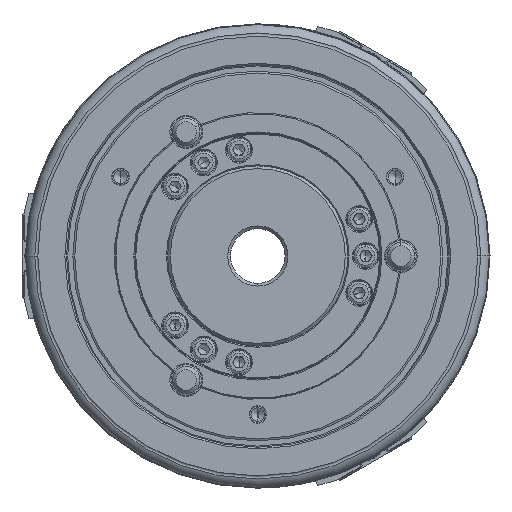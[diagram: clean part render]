
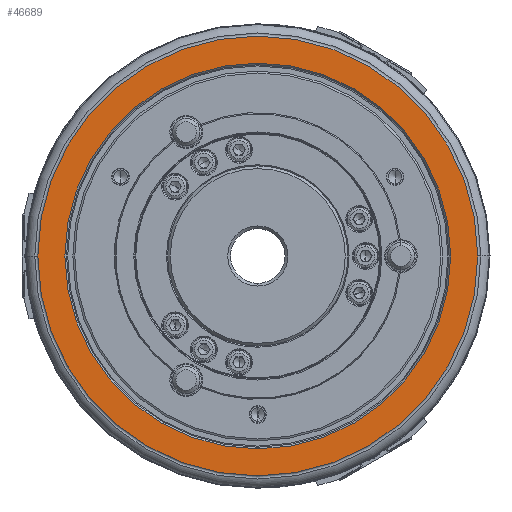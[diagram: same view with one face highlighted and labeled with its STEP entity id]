
A CAD part, left-side view. The second image highlights one B-rep face of the part: STEP entity #46689.
In plain terms, the highlighted planar face has unit normal (-1, 0, 0).
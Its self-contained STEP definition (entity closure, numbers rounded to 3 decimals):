
#175 = AXIS2_PLACEMENT_3D ( 'NONE', #10489, #23740, #58868 ) ;
#3002 = CIRCLE ( 'NONE', #19050, 80.5 ) ;
#5719 = CARTESIAN_POINT ( 'NONE',  ( -81., 80.5, 0. ) ) ;
#7018 = DIRECTION ( 'NONE',  ( 1., 0., 0. ) ) ;
#10020 = EDGE_CURVE ( 'NONE', #61953, #40762, #3002, .T. ) ;
#10416 = CIRCLE ( 'NONE', #175, 80.5 ) ;
#10489 = CARTESIAN_POINT ( 'NONE',  ( -81., 0., 0. ) ) ;
#15319 = DIRECTION ( 'NONE',  ( 1., 0., 0. ) ) ;
#19050 = AXIS2_PLACEMENT_3D ( 'NONE', #63131, #7018, #90075 ) ;
#19302 = PLANE ( 'NONE',  #84244 ) ;
#19989 = EDGE_LOOP ( 'NONE', ( #46556, #50197 ) ) ;
#20750 = ORIENTED_EDGE ( 'NONE', *, *, #29224, .F. ) ;
#21214 = EDGE_CURVE ( 'NONE', #67961, #30371, #27310, .T. ) ;
#21319 = DIRECTION ( 'NONE',  ( 0., 0., -1. ) ) ;
#23392 = AXIS2_PLACEMENT_3D ( 'NONE', #42269, #76115, #21319 ) ;
#23740 = DIRECTION ( 'NONE',  ( 1., 0., 0. ) ) ;
#26416 = ORIENTED_EDGE ( 'NONE', *, *, #10020, .F. ) ;
#27310 = CIRCLE ( 'NONE', #37454, 70.6 ) ;
#29224 = EDGE_CURVE ( 'NONE', #40762, #61953, #10416, .T. ) ;
#30371 = VERTEX_POINT ( 'NONE', #58431 ) ;
#33906 = DIRECTION ( 'NONE',  ( -1., 0., 0. ) ) ;
#37454 = AXIS2_PLACEMENT_3D ( 'NONE', #77869, #15319, #64162 ) ;
#40762 = VERTEX_POINT ( 'NONE', #79004 ) ;
#42269 = CARTESIAN_POINT ( 'NONE',  ( -81., 0., 0. ) ) ;
#42581 = CARTESIAN_POINT ( 'NONE',  ( -81., 0., 70.6 ) ) ;
#46556 = ORIENTED_EDGE ( 'NONE', *, *, #21214, .T. ) ;
#46689 = ADVANCED_FACE ( 'NONE', ( #53976, #75012 ), #19302, .T. ) ;
#48492 = CARTESIAN_POINT ( 'NONE',  ( -81., 35.3, -61.141 ) ) ;
#50197 = ORIENTED_EDGE ( 'NONE', *, *, #85408, .T. ) ;
#53976 = FACE_OUTER_BOUND ( 'NONE', #57991, .T. ) ;
#57991 = EDGE_LOOP ( 'NONE', ( #26416, #20750 ) ) ;
#58431 = CARTESIAN_POINT ( 'NONE',  ( -81., 0., -70.6 ) ) ;
#58868 = DIRECTION ( 'NONE',  ( 0., 1., 0. ) ) ;
#59864 = CIRCLE ( 'NONE', #23392, 70.6 ) ;
#61953 = VERTEX_POINT ( 'NONE', #5719 ) ;
#63131 = CARTESIAN_POINT ( 'NONE',  ( -81., 0., 0. ) ) ;
#64162 = DIRECTION ( 'NONE',  ( 0., 0., -1. ) ) ;
#67961 = VERTEX_POINT ( 'NONE', #42581 ) ;
#75012 = FACE_BOUND ( 'NONE', #19989, .T. ) ;
#76115 = DIRECTION ( 'NONE',  ( 1., 0., 0. ) ) ;
#77869 = CARTESIAN_POINT ( 'NONE',  ( -81., 0., 0. ) ) ;
#79004 = CARTESIAN_POINT ( 'NONE',  ( -81., -80.5, 0. ) ) ;
#84244 = AXIS2_PLACEMENT_3D ( 'NONE', #48492, #33906, #89571 ) ;
#85408 = EDGE_CURVE ( 'NONE', #30371, #67961, #59864, .T. ) ;
#89571 = DIRECTION ( 'NONE',  ( 0., 0., 1. ) ) ;
#90075 = DIRECTION ( 'NONE',  ( 0., 1., 0. ) ) ;
